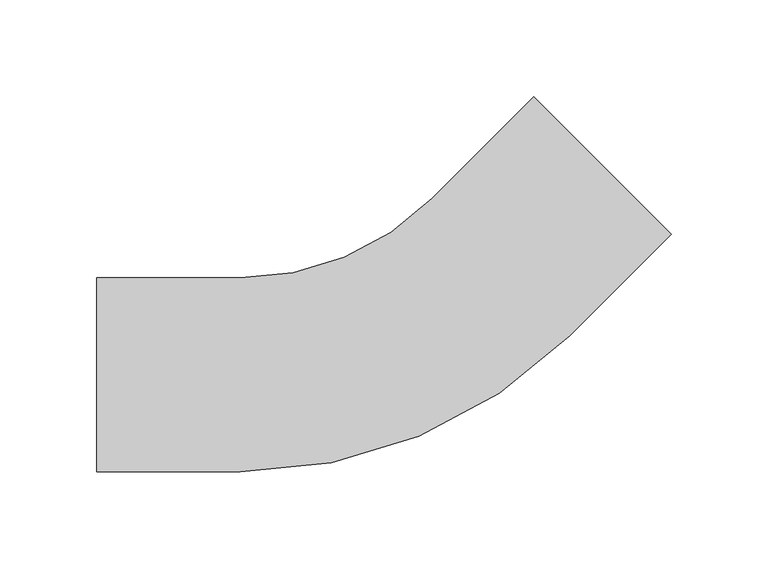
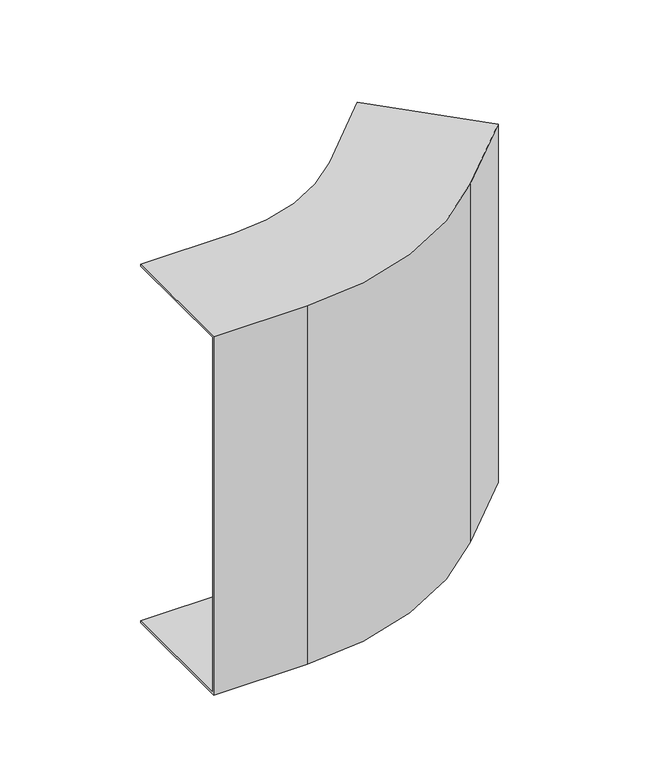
"""IFC4 building model written with IfcOpenShell, lengths in millimetres: cable carrier fitting geometry, BAKS_KK_Vertical bend EXTERNAL_LU : LUMPNP_H100."""

from ifc_helpers import new_model, si_unit, frame, origin, place, context, project, spatial, polyline, circle_curve, source, transform, mapped, element, save
from ifc_brep_helpers import plane_surface, cylinder_surface, revolved_surface, advanced_brep


def cable_carrier_fitting_29c6dbfe(model_context):
    return source(origin(), model_context, "Body", "AdvancedBrep", [
        advanced_brep(
        [(-152.7005769, 50.0, 150.0), (-152.7005769, 50.0, 148.5), (-152.7005769, -48.5, 148.5), (-152.7005769, -48.5, -148.5), (-152.7005769, 50.0, -148.5), (-152.7005769, 50.0, -150.0), (-152.7005769, -50.0, -150.0), (-152.7005769, -50.0, 150.0), (72.6202743, 143.3309524, 150.0), (143.3309524, 72.6202743, 150.0), (143.3309524, 72.6202743, -150.0), (72.6202743, 143.3309524, -150.0), (72.6202743, 143.3309524, -148.5), (142.2702923, 73.6809345, -148.5), (142.2702923, 73.6809345, 148.5), (72.6202743, 143.3309524, 148.5), (-78.7005769, -50.0, 150.0), (91.0050506, 20.2943725, 150.0), (20.2943725, 91.0050506, 150.0), (-78.7005769, 50.0, 150.0), (-78.7005769, -50.0, -150.0), (-78.7005769, 50.0, -150.0), (20.2943725, 91.0050506, -150.0), (91.0050506, 20.2943725, -150.0), (-78.7005769, 50.0, -148.5), (-78.7005769, -48.5, -148.5), (89.9443905, 21.3550327, -148.5), (20.2943725, 91.0050506, -148.5), (-78.7005769, -48.5, 148.5), (-78.7005769, 50.0, 148.5), (20.2943725, 91.0050506, 148.5), (89.9443905, 21.3550327, 148.5)],
        [
            (0, 1),
            (1, 2),
            (2, 3),
            (3, 4),
            (4, 5),
            (5, 6),
            (6, 7),
            (7, 0),
            (8, 9),
            (9, 10),
            (10, 11),
            (11, 12),
            (12, 13),
            (13, 14),
            (14, 15),
            (15, 8),
            (7, 16),
            (16, 17, circle_curve(frame((-78.7005769, 190.0, 150.0), z_axis=(0.0, 0.0, 1.0), x_axis=(0.0, -1.0, 0.0)), 240.0)),
            (17, 9),
            (8, 18),
            (18, 19, circle_curve(frame((-78.7005769, 190.0, 150.0), z_axis=(0.0, 0.0, -1.0), x_axis=(0.0, -1.0, 0.0)), 140.0)),
            (19, 0),
            (6, 20),
            (20, 16),
            (5, 21),
            (21, 22, circle_curve(frame((-78.7005769, 190.0, -150.0), z_axis=(0.0, 0.0, 1.0), x_axis=(0.0, -1.0, 0.0)), 140.0)),
            (22, 11),
            (10, 23),
            (23, 20, circle_curve(frame((-78.7005769, 190.0, -150.0), z_axis=(0.0, 0.0, -1.0), x_axis=(0.0, -1.0, 0.0)), 240.0)),
            (4, 24),
            (24, 21),
            (3, 25),
            (25, 26, circle_curve(frame((-78.7005769, 190.0, -148.5), z_axis=(0.0, 0.0, 1.0), x_axis=(0.0, -1.0, 0.0)), 238.5)),
            (26, 13),
            (12, 27),
            (27, 24, circle_curve(frame((-78.7005769, 190.0, -148.5), z_axis=(0.0, 0.0, -1.0), x_axis=(0.0, -1.0, 0.0)), 140.0)),
            (2, 28),
            (28, 25),
            (1, 29),
            (29, 30, circle_curve(frame((-78.7005769, 190.0, 148.5), z_axis=(0.0, 0.0, 1.0), x_axis=(0.0, -1.0, 0.0)), 140.0)),
            (30, 15),
            (14, 31),
            (31, 28, circle_curve(frame((-78.7005769, 190.0, 148.5), z_axis=(0.0, 0.0, -1.0), x_axis=(0.0, -1.0, 0.0)), 238.5)),
            (19, 29),
            (23, 17),
            (27, 22),
            (31, 26),
            (18, 30),
        ],
        [
            plane_surface(frame((-152.7005769, 0.0, 0.0), z_axis=(-1.0, 0.0, 0.0), x_axis=(0.0, 0.0, 1.0))),
            plane_surface(frame((107.9756134, 107.9756134, 0.0), z_axis=(0.7071067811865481, 0.7071067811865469, 0.0), x_axis=(0.0, 0.0, 1.0))),
            plane_surface(frame((-152.7005769, -50.0, 150.0), z_axis=(0.0, 0.0, 1.0), x_axis=(1.0, 0.0, 0.0))),
            plane_surface(frame((-152.7005769, -50.0, -150.0), z_axis=(0.0, -1.0, 0.0), x_axis=(1.0, 0.0, 0.0))),
            plane_surface(frame((-152.7005769, 50.0, -150.0), z_axis=(0.0, 0.0, -1.0), x_axis=(1.0, 0.0, 0.0))),
            plane_surface(frame((-152.7005769, 50.0, -148.5), z_axis=(0.0, 1.0, 0.0), x_axis=(1.0, 0.0, 0.0))),
            plane_surface(frame((-152.7005769, -48.5, -148.5), z_axis=(0.0, 0.0, 1.0), x_axis=(1.0, 0.0, 0.0))),
            plane_surface(frame((-152.7005769, -48.5, 148.5), z_axis=(0.0, 1.0, 0.0), x_axis=(1.0, 0.0, 0.0))),
            plane_surface(frame((-152.7005769, 50.0, 148.5), z_axis=(0.0, 0.0, -1.0), x_axis=(1.0, 0.0, 0.0))),
            plane_surface(frame((-152.7005769, 50.0, 150.0), z_axis=(0.0, 1.0, 0.0), x_axis=(1.0, 0.0, 0.0))),
            cylinder_surface(frame((-78.7005769, 190.0, 0.0), z_axis=(0.0, 0.0, 1.0), x_axis=(0.0, -1.0, 0.0)), 240.0),
            revolved_surface(polyline([(-78.7005769, 50.0, -148.5), (-78.7005769, 50.0, -150.0)]), (-78.7005769, 190.0, 0.0), (0.0, 0.0, 1.0)),
            revolved_surface(polyline([(-78.7005769, -48.5, 148.5), (-78.7005769, -48.5, -148.5)]), (-78.7005769, 190.0, 0.0), (0.0, 0.0, 1.0)),
            revolved_surface(polyline([(-78.7005769, 50.0, 150.0), (-78.7005769, 50.0, 148.5)]), (-78.7005769, 190.0, 0.0), (0.0, 0.0, 1.0)),
            plane_surface(frame((91.0050506, 20.2943725, -150.0), z_axis=(0.7071067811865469, -0.7071067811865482, 0.0), x_axis=(0.7071067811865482, 0.7071067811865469, 0.0))),
            plane_surface(frame((20.2943725, 91.0050506, -148.5), z_axis=(-0.7071067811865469, 0.7071067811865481, 0.0), x_axis=(0.7071067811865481, 0.7071067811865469, 0.0))),
            plane_surface(frame((89.9443905, 21.3550327, 148.5), z_axis=(-0.7071067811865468, 0.7071067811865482, 0.0), x_axis=(0.7071067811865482, 0.7071067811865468, 0.0))),
            plane_surface(frame((20.2943725, 91.0050506, 150.0), z_axis=(-0.7071067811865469, 0.7071067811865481, 0.0), x_axis=(0.7071067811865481, 0.7071067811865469, 0.0))),
        ],
        [
            (0, [[1, 2, 3, 4, 5, 6, 7, 8]]),
            (1, [[9, 10, 11, 12, 13, 14, 15, 16]]),
            (2, [[-8, 17, 18, 19, -9, 20, 21, 22]]),
            (3, [[-7, 23, 24, -17]]),
            (4, [[-6, 25, 26, 27, -11, 28, 29, -23]]),
            (5, [[-5, 30, 31, -25]]),
            (6, [[-4, 32, 33, 34, -13, 35, 36, -30]]),
            (7, [[-3, 37, 38, -32]]),
            (8, [[-2, 39, 40, 41, -15, 42, 43, -37]]),
            (9, [[-1, -22, 44, -39]]),
            (10, [[-18, -24, -29, 45]]),
            (11, [[-26, -31, -36, 46]]),
            (12, [[-33, -38, -43, 47]]),
            (13, [[-40, -44, -21, 48]]),
            (14, [[-45, -28, -10, -19]]),
            (15, [[-46, -35, -12, -27]]),
            (16, [[-47, -42, -14, -34]]),
            (17, [[-48, -20, -16, -41]]),
        ],
    ),
    ])


if __name__ == "__main__":
    model = new_model("IFC4")
    model_context = context("Model", 3, world=origin())
    ifc_project = project(units=[si_unit("LENGTHUNIT", "METRE", prefix="MILLI")], contexts=[model_context])
    site = spatial("IfcSite", under=ifc_project)
    building = spatial("IfcBuilding", under=site)
    placement = place(None, origin())
    cable_carrier_fitting_shape = cable_carrier_fitting_29c6dbfe(model_context)
    element("IfcCableCarrierFitting", 1, ObjectType="BAKS_KK_Vertical bend EXTERNAL_LU : LUMPNP_H100", at=placement, inside=building, context=model_context, shape_type="MappedRepresentation", body=[
        mapped(cable_carrier_fitting_shape, transform((0.0, 0.0, 0.0), x_axis=(1.0, 0.0, 0.0), y_axis=(0.0, 1.0, 0.0), z_axis=(0.0, 0.0, 1.0))),
    ])
    save(model, "model.ifc")
